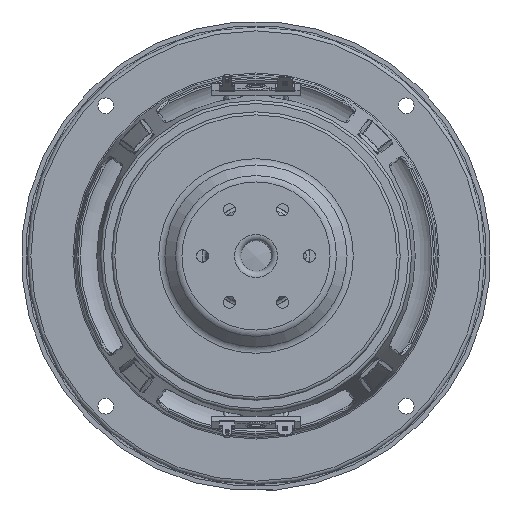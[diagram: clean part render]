
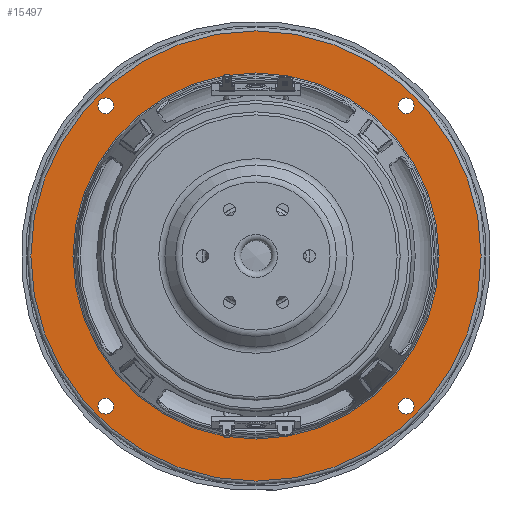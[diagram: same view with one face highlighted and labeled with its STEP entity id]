
A CAD part, front view. The second image highlights one B-rep face of the part: STEP entity #15497.
In plain terms, the highlighted planar face has unit normal (0, -1, 0).
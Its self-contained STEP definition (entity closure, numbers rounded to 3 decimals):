
#1200=FACE_BOUND('',#2842,.T.);
#1201=FACE_BOUND('',#2843,.T.);
#1202=FACE_BOUND('',#2844,.T.);
#1203=FACE_BOUND('',#2845,.T.);
#1204=FACE_BOUND('',#2846,.T.);
#1302=PLANE('',#16717);
#1847=FACE_OUTER_BOUND('',#2841,.T.);
#2841=EDGE_LOOP('',(#11600));
#2842=EDGE_LOOP('',(#11601));
#2843=EDGE_LOOP('',(#11602));
#2844=EDGE_LOOP('',(#11603));
#2845=EDGE_LOOP('',(#11604));
#2846=EDGE_LOOP('',(#11605));
#5573=CIRCLE('',#16475,2.6);
#5574=CIRCLE('',#16477,2.6);
#5712=CIRCLE('',#16700,60.);
#5721=CIRCLE('',#16715,73.8);
#5723=CIRCLE('',#16718,2.6);
#5724=CIRCLE('',#16719,2.6);
#6399=VERTEX_POINT('',#22887);
#6400=VERTEX_POINT('',#22891);
#6773=VERTEX_POINT('',#41574);
#6779=VERTEX_POINT('',#41597);
#6780=VERTEX_POINT('',#41601);
#6781=VERTEX_POINT('',#41603);
#7999=EDGE_CURVE('',#6399,#6399,#5573,.T.);
#8001=EDGE_CURVE('',#6400,#6400,#5574,.T.);
#8546=EDGE_CURVE('',#6773,#6773,#5712,.T.);
#8556=EDGE_CURVE('',#6779,#6779,#5721,.T.);
#8558=EDGE_CURVE('',#6780,#6780,#5723,.T.);
#8559=EDGE_CURVE('',#6781,#6781,#5724,.T.);
#11600=ORIENTED_EDGE('',*,*,#8556,.F.);
#11601=ORIENTED_EDGE('',*,*,#8546,.T.);
#11602=ORIENTED_EDGE('',*,*,#8558,.F.);
#11603=ORIENTED_EDGE('',*,*,#8559,.F.);
#11604=ORIENTED_EDGE('',*,*,#7999,.T.);
#11605=ORIENTED_EDGE('',*,*,#8001,.T.);
#15497=ADVANCED_FACE('',(#1847,#1200,#1201,#1202,#1203,#1204),#1302,.T.);
#16475=AXIS2_PLACEMENT_3D('',#22889,#18380,#18381);
#16477=AXIS2_PLACEMENT_3D('',#22893,#18385,#18386);
#16700=AXIS2_PLACEMENT_3D('',#41576,#18888,#18889);
#16715=AXIS2_PLACEMENT_3D('',#41598,#18919,#18920);
#16717=AXIS2_PLACEMENT_3D('',#41600,#18923,#18924);
#16718=AXIS2_PLACEMENT_3D('',#41602,#18925,#18926);
#16719=AXIS2_PLACEMENT_3D('',#41604,#18927,#18928);
#18380=DIRECTION('center_axis',(0.,1.,0.));
#18381=DIRECTION('ref_axis',(-0.707,0.,0.707));
#18385=DIRECTION('center_axis',(0.,1.,0.));
#18386=DIRECTION('ref_axis',(0.707,0.,0.707));
#18888=DIRECTION('center_axis',(0.,1.,0.));
#18889=DIRECTION('ref_axis',(-0.707,0.,-0.707));
#18919=DIRECTION('center_axis',(0.,1.,0.));
#18920=DIRECTION('ref_axis',(-0.707,0.,-0.707));
#18923=DIRECTION('center_axis',(0.,-1.,0.));
#18924=DIRECTION('ref_axis',(-0.707,0.,0.707));
#18925=DIRECTION('center_axis',(0.,-1.,0.));
#18926=DIRECTION('ref_axis',(0.707,0.,0.707));
#18927=DIRECTION('center_axis',(0.,-1.,0.));
#18928=DIRECTION('ref_axis',(0.707,0.,-0.707));
#22887=CARTESIAN_POINT('',(71.438,8.663,-1.838));
#22889=CARTESIAN_POINT('Origin',(69.6,8.663,0.));
#22891=CARTESIAN_POINT('',(-1.838,8.663,-71.438));
#22893=CARTESIAN_POINT('Origin',(0.,8.663,
-69.6));
#41574=CARTESIAN_POINT('',(42.426,8.663,-42.426));
#41576=CARTESIAN_POINT('Origin',(0.,8.663,0.));
#41597=CARTESIAN_POINT('',(52.184,8.663,-52.184));
#41598=CARTESIAN_POINT('Origin',(0.,8.663,0.));
#41600=CARTESIAN_POINT('Origin',(-42.426,8.663,-42.426));
#41601=CARTESIAN_POINT('',(-71.438,8.663,-1.838));
#41602=CARTESIAN_POINT('Origin',(-69.6,8.663,0.));
#41603=CARTESIAN_POINT('',(-1.838,8.663,71.438));
#41604=CARTESIAN_POINT('Origin',(0.,8.663,
69.6));
